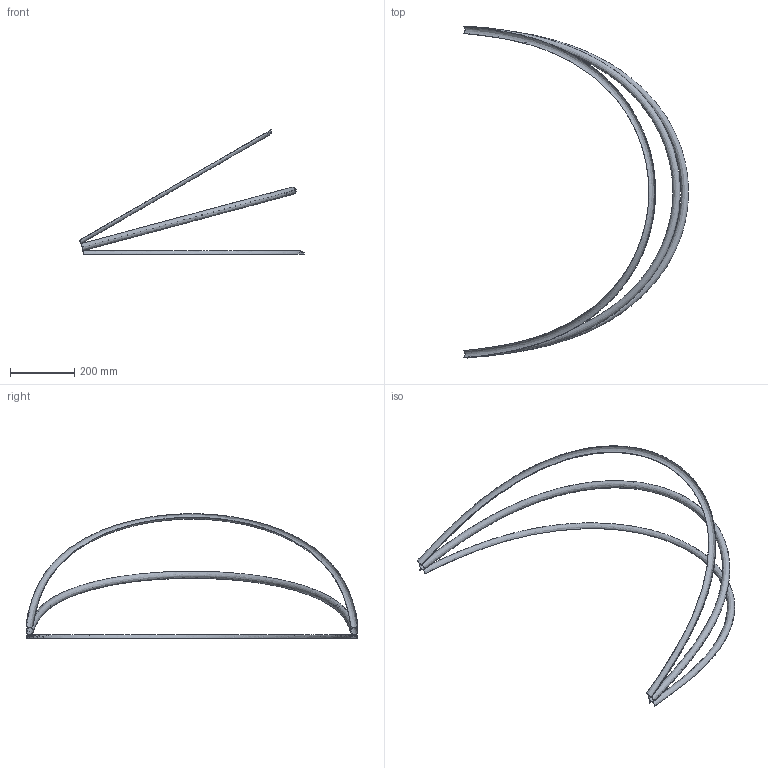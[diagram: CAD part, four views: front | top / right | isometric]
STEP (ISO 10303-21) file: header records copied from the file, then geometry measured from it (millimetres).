
FILE_DESCRIPTION(/* description */ ('STEP AP214'),/* implementation_level */ '2;1');
FILE_NAME(/* name */ '65597465494ff957a92703d7',/* time_stamp */ '2023-11-19T02:35:21Z',/* author */ (''),/* organization */ (''),/* preprocessor_version */ 'ST-DEVELOPER v19.4',/* originating_system */ ' ',/* authorisation */ ' ');
FILE_SCHEMA (('AUTOMOTIVE_DESIGN {1 0 10303 214 3 1 1}'));
Products named in the file (1): Frame
Bounding box: 700.4 x 1032.85 x 387.7 mm (x, y, z)
Volume: 58181.1 mm3; surface area: 534398.6 mm2
Topology: 1 solids, 1 shells, 2372 faces, 8098 edges, 5920 vertices
Faces by surface type: plane 2062, bspline 308, cylinder 2
Entity records: 115474 total; most frequent: CARTESIAN_POINT 53505, ORIENTED_EDGE 16192, EDGE_CURVE 8096, DIRECTION 8058, VERTEX_POINT 5920, B_SPLINE_CURVE_WITH_KNOTS 4168, LINE 3928, VECTOR 3928
